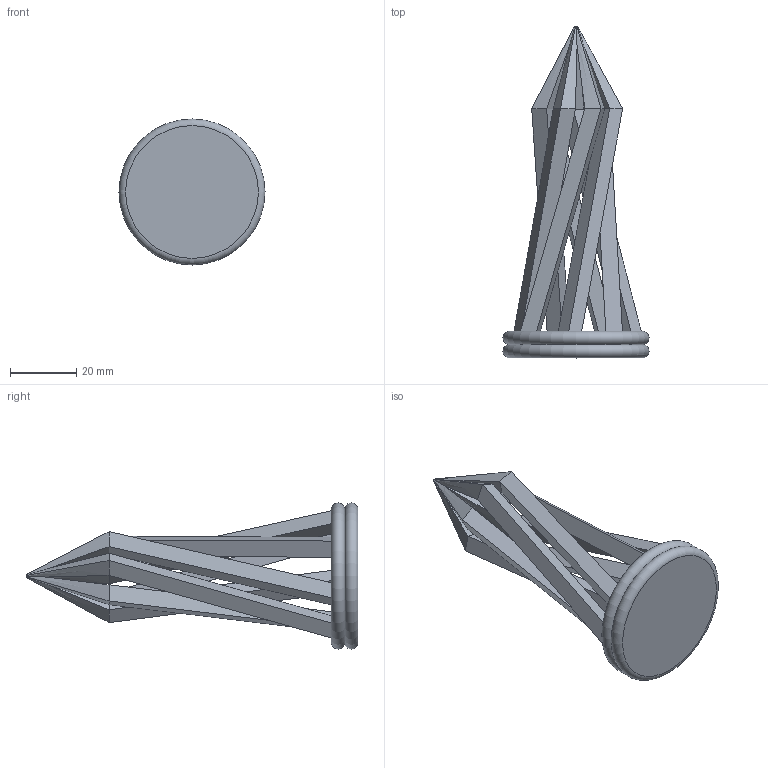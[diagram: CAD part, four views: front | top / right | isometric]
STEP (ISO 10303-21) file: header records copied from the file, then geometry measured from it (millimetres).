
FILE_DESCRIPTION(/* description */ (''),/* implementation_level */ '2;1');
FILE_NAME(/* name */ 'E:\Chess\Bishop.stp',/* time_stamp */ '2021-01-30T10:47:35-05:00',/* author */ ('Owner'),/* organization */ (''),/* preprocessor_version */ 'ST-DEVELOPER v18',/* originating_system */ 'Autodesk Inventor 2020',/* authorisation */ '');
FILE_SCHEMA (('AUTOMOTIVE_DESIGN { 1 0 10303 214 3 1 1 }'));
Length unit declared in the file: millimetre
Products named in the file (1): Bishop
Bounding box: 44 x 100 x 44 mm (x, y, z)
Volume: 25176 mm3; surface area: 15599.8 mm2
Topology: 1 solids, 1 shells, 61 faces, 155 edges, 97 vertices
Faces by surface type: plane 31, bspline 28, torus 2
Entity records: 2329 total; most frequent: CARTESIAN_POINT 923, ORIENTED_EDGE 296, DIRECTION 226, EDGE_CURVE 148, LINE 112, VECTOR 112, VERTEX_POINT 84, EDGE_LOOP 68
